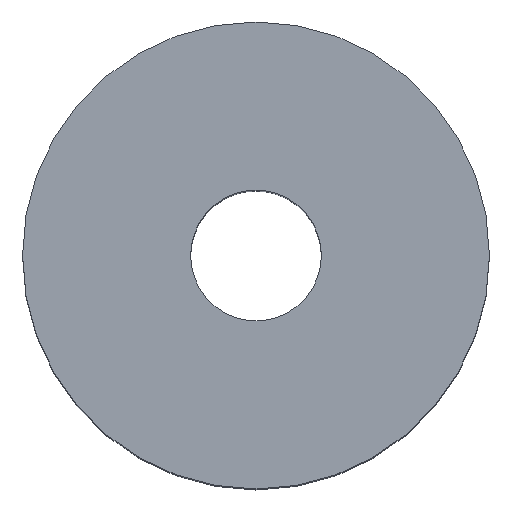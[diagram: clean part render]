
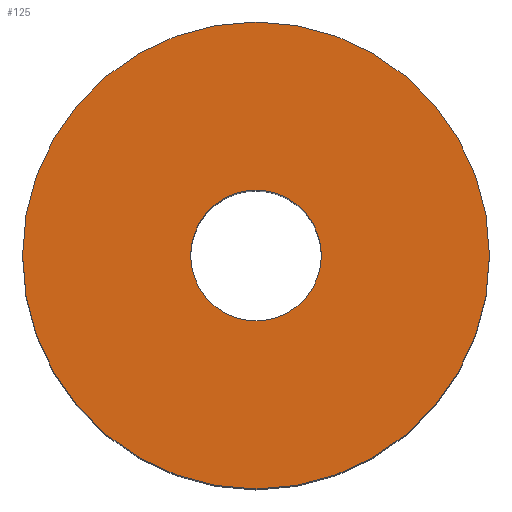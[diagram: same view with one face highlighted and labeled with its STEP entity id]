
A CAD part, top view. The second image highlights one B-rep face of the part: STEP entity #125.
In plain terms, the highlighted planar face has unit normal (0, 0, 1).
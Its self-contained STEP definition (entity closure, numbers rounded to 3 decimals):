
#125=ADVANCED_FACE('',(#137,#138),#135,.T.);
#135=PLANE('',#244);
#137=FACE_BOUND('',#141,.T.);
#138=FACE_BOUND('',#142,.T.);
#141=EDGE_LOOP('',(#153,#154));
#142=EDGE_LOOP('',(#155,#156));
#153=ORIENTED_EDGE('',*,*,#205,.T.);
#154=ORIENTED_EDGE('',*,*,#206,.T.);
#155=ORIENTED_EDGE('',*,*,#207,.F.);
#156=ORIENTED_EDGE('',*,*,#208,.F.);
#193=VERTEX_POINT('',#322);
#194=VERTEX_POINT('',#323);
#195=VERTEX_POINT('',#326);
#196=VERTEX_POINT('',#327);
#205=EDGE_CURVE('',#193,#194,#225,.T.);
#206=EDGE_CURVE('',#194,#193,#226,.T.);
#207=EDGE_CURVE('',#195,#196,#227,.T.);
#208=EDGE_CURVE('',#196,#195,#228,.T.);
#225=CIRCLE('',#240,25.);
#226=CIRCLE('',#241,25.);
#227=CIRCLE('',#242,7.);
#228=CIRCLE('',#243,7.);
#240=AXIS2_PLACEMENT_3D('',#321,#266,#267);
#241=AXIS2_PLACEMENT_3D('',#324,#268,#269);
#242=AXIS2_PLACEMENT_3D('',#325,#270,#271);
#243=AXIS2_PLACEMENT_3D('',#328,#272,#273);
#244=AXIS2_PLACEMENT_3D('',#329,#274,#275);
#266=DIRECTION('',(0.,0.,1.));
#267=DIRECTION('',(0.,1.,0.));
#268=DIRECTION('',(0.,0.,1.));
#269=DIRECTION('',(0.,-1.,0.));
#270=DIRECTION('',(0.,0.,1.));
#271=DIRECTION('',(0.,-1.,0.));
#272=DIRECTION('',(0.,0.,1.));
#273=DIRECTION('',(0.,1.,0.));
#274=DIRECTION('',(0.,0.,1.));
#275=DIRECTION('',(0.,1.,0.));
#321=CARTESIAN_POINT('',(0.,0.,62.));
#322=CARTESIAN_POINT('',(-25.,0.,62.));
#323=CARTESIAN_POINT('',(25.,0.,62.));
#324=CARTESIAN_POINT('',(0.,0.,62.));
#325=CARTESIAN_POINT('',(0.,0.,62.));
#326=CARTESIAN_POINT('',(7.,0.,62.));
#327=CARTESIAN_POINT('',(-7.,0.,62.));
#328=CARTESIAN_POINT('',(0.,0.,62.));
#329=CARTESIAN_POINT('',(0.,0.,62.));
